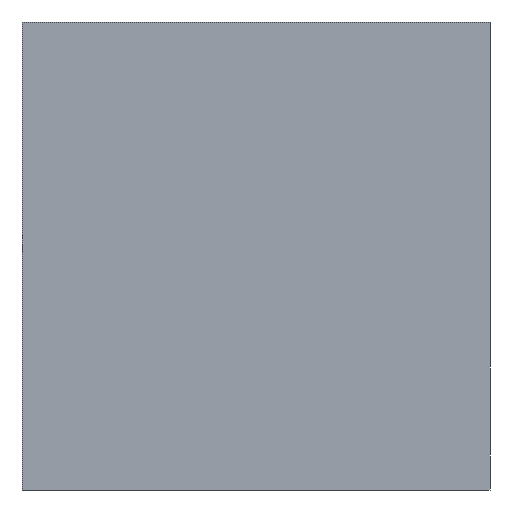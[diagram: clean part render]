
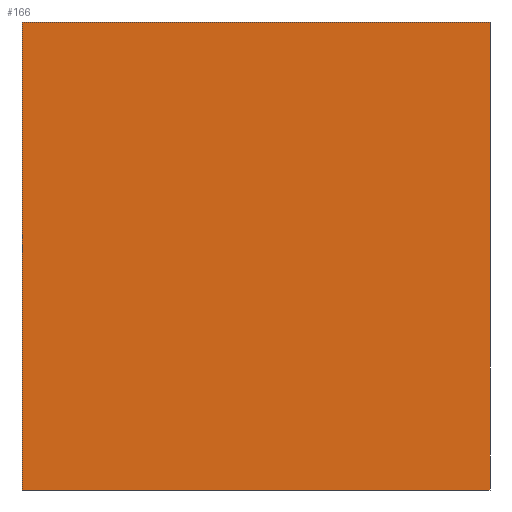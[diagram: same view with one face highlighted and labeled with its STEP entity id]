
A CAD part, left-side view. The second image highlights one B-rep face of the part: STEP entity #166.
In plain terms, the highlighted planar face has unit normal (-1, 0, 0).
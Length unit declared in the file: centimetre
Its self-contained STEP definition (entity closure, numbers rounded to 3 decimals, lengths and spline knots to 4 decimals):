
#4 = CARTESIAN_POINT ( 'NONE',  ( 0., 1000., 1000. ) ) ;
#7 = DIRECTION ( 'NONE',  ( 0., -1., 0. ) ) ;
#11 = DIRECTION ( 'NONE',  ( 1., 0., 0. ) ) ;
#49 = LINE ( 'NONE', #178, #124 ) ;
#56 = EDGE_LOOP ( 'NONE', ( #330, #186, #249, #341 ) ) ;
#58 = VERTEX_POINT ( 'NONE', #288 ) ;
#69 = VERTEX_POINT ( 'NONE', #310 ) ;
#77 = PLANE ( 'NONE',  #353 ) ;
#83 = LINE ( 'NONE', #4, #184 ) ;
#84 = CARTESIAN_POINT ( 'NONE',  ( 0., 1000., 1000. ) ) ;
#102 = VECTOR ( 'NONE', #388, 100. ) ;
#121 = CARTESIAN_POINT ( 'NONE',  ( 0., 0., 1000. ) ) ;
#124 = VECTOR ( 'NONE', #297, 100. ) ;
#148 = DIRECTION ( 'NONE',  ( 0., 0., -1. ) ) ;
#166 = ADVANCED_FACE ( 'NONE', ( #327 ), #77, .F. ) ;
#178 = CARTESIAN_POINT ( 'NONE',  ( 0., 1000., 1000. ) ) ;
#184 = VECTOR ( 'NONE', #7, 100. ) ;
#186 = ORIENTED_EDGE ( 'NONE', *, *, #299, .F. ) ;
#188 = LINE ( 'NONE', #273, #202 ) ;
#198 = VERTEX_POINT ( 'NONE', #121 ) ;
#200 = EDGE_CURVE ( 'NONE', #400, #198, #83, .T. ) ;
#201 = LINE ( 'NONE', #262, #102 ) ;
#202 = VECTOR ( 'NONE', #392, 100. ) ;
#249 = ORIENTED_EDGE ( 'NONE', *, *, #200, .F. ) ;
#262 = CARTESIAN_POINT ( 'NONE',  ( 0., 0., 1000. ) ) ;
#273 = CARTESIAN_POINT ( 'NONE',  ( 0., 1000., 0. ) ) ;
#287 = EDGE_CURVE ( 'NONE', #400, #69, #49, .T. ) ;
#288 = CARTESIAN_POINT ( 'NONE',  ( 0., 0., 0. ) ) ;
#297 = DIRECTION ( 'NONE',  ( 0., 0., -1. ) ) ;
#299 = EDGE_CURVE ( 'NONE', #198, #58, #201, .T. ) ;
#300 = CARTESIAN_POINT ( 'NONE',  ( 0., 1000., 1000. ) ) ;
#310 = CARTESIAN_POINT ( 'NONE',  ( 0., 1000., 0. ) ) ;
#327 = FACE_OUTER_BOUND ( 'NONE', #56, .T. ) ;
#330 = ORIENTED_EDGE ( 'NONE', *, *, #343, .T. ) ;
#341 = ORIENTED_EDGE ( 'NONE', *, *, #287, .T. ) ;
#343 = EDGE_CURVE ( 'NONE', #69, #58, #188, .T. ) ;
#353 = AXIS2_PLACEMENT_3D ( 'NONE', #84, #11, #148 ) ;
#388 = DIRECTION ( 'NONE',  ( 0., 0., -1. ) ) ;
#392 = DIRECTION ( 'NONE',  ( 0., -1., 0. ) ) ;
#400 = VERTEX_POINT ( 'NONE', #300 ) ;
